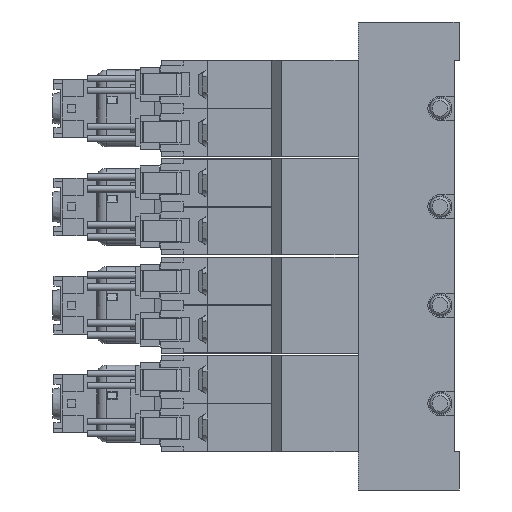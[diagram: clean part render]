
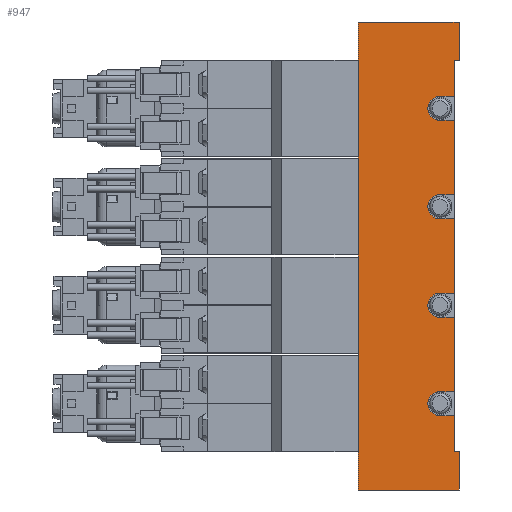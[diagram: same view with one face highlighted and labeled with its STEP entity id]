
A CAD part, left-side view. The second image highlights one B-rep face of the part: STEP entity #947.
In plain terms, the highlighted planar face has unit normal (-1, 0, 0) as drawn and (1, 0, 0) by its records, which use the part's own axes.
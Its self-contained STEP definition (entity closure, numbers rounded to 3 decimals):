
#947=ADVANCED_FACE('',(#3427),#3428,.F.);
#3427=FACE_OUTER_BOUND('',#8135,.T.);
#3428=PLANE('',#8136);
#8135=EDGE_LOOP('',(#15083,#15084,#15085,#15086,#15087,#15088,#15089,#15090,#15091,#15092,#15093,#15094,#15095,#15096,#15097,#15098,#15099,#15100,#15101,#15102,#15103,#15104,#15105,#15106));
#8136=AXIS2_PLACEMENT_3D('',#15107,#15108,#15109);
#15083=ORIENTED_EDGE('',*,*,#29310,.T.);
#15084=ORIENTED_EDGE('',*,*,#29311,.T.);
#15085=ORIENTED_EDGE('',*,*,#29280,.F.);
#15086=ORIENTED_EDGE('',*,*,#29309,.F.);
#15087=ORIENTED_EDGE('',*,*,#29312,.T.);
#15088=ORIENTED_EDGE('',*,*,#29249,.T.);
#15089=ORIENTED_EDGE('',*,*,#29313,.T.);
#15090=ORIENTED_EDGE('',*,*,#29285,.F.);
#15091=ORIENTED_EDGE('',*,*,#29314,.F.);
#15092=ORIENTED_EDGE('',*,*,#29315,.F.);
#15093=ORIENTED_EDGE('',*,*,#29316,.T.);
#15094=ORIENTED_EDGE('',*,*,#29317,.F.);
#15095=ORIENTED_EDGE('',*,*,#29318,.F.);
#15096=ORIENTED_EDGE('',*,*,#29319,.F.);
#15097=ORIENTED_EDGE('',*,*,#29320,.T.);
#15098=ORIENTED_EDGE('',*,*,#29290,.F.);
#15099=ORIENTED_EDGE('',*,*,#29304,.F.);
#15100=ORIENTED_EDGE('',*,*,#29321,.F.);
#15101=ORIENTED_EDGE('',*,*,#29322,.T.);
#15102=ORIENTED_EDGE('',*,*,#29323,.F.);
#15103=ORIENTED_EDGE('',*,*,#29324,.F.);
#15104=ORIENTED_EDGE('',*,*,#29325,.F.);
#15105=ORIENTED_EDGE('',*,*,#29326,.T.);
#15106=ORIENTED_EDGE('',*,*,#29327,.T.);
#15107=CARTESIAN_POINT('',(17.5,1.0,48.75));
#15108=DIRECTION('',(-1.0,0.0,0.0));
#15109=DIRECTION('',(0.0,0.0,1.0));
#29249=EDGE_CURVE('',#35507,#35504,#35508,.T.);
#29280=EDGE_CURVE('',#35567,#35562,#35569,.T.);
#29285=EDGE_CURVE('',#35578,#35579,#35580,.T.);
#29290=EDGE_CURVE('',#35588,#35589,#35590,.T.);
#29304=EDGE_CURVE('',#35613,#35588,#35615,.T.);
#29309=EDGE_CURVE('',#35622,#35567,#35624,.T.);
#29310=EDGE_CURVE('',#35625,#35626,#35627,.T.);
#29311=EDGE_CURVE('',#35626,#35562,#35628,.T.);
#29312=EDGE_CURVE('',#35622,#35507,#35629,.T.);
#29313=EDGE_CURVE('',#35504,#35579,#35630,.T.);
#29314=EDGE_CURVE('',#35631,#35578,#35632,.T.);
#29315=EDGE_CURVE('',#35633,#35631,#35634,.T.);
#29316=EDGE_CURVE('',#35633,#35635,#35636,.T.);
#29317=EDGE_CURVE('',#35637,#35635,#35638,.T.);
#29318=EDGE_CURVE('',#35639,#35637,#35640,.T.);
#29319=EDGE_CURVE('',#35641,#35639,#35642,.T.);
#29320=EDGE_CURVE('',#35641,#35589,#35643,.T.);
#29321=EDGE_CURVE('',#35644,#35613,#35645,.T.);
#29322=EDGE_CURVE('',#35644,#35646,#35647,.T.);
#29323=EDGE_CURVE('',#35648,#35646,#35649,.T.);
#29324=EDGE_CURVE('',#35650,#35648,#35651,.T.);
#29325=EDGE_CURVE('',#35652,#35650,#35653,.T.);
#29326=EDGE_CURVE('',#35652,#35654,#35655,.T.);
#29327=EDGE_CURVE('',#35654,#35625,#35656,.T.);
#35504=VERTEX_POINT('',#44966);
#35507=VERTEX_POINT('',#44970);
#35508=LINE('',#44971,#44972);
#35562=VERTEX_POINT('',#45169);
#35567=VERTEX_POINT('',#45176);
#35569=LINE('',#45179,#45180);
#35578=VERTEX_POINT('',#45189);
#35579=VERTEX_POINT('',#45190);
#35580=LINE('',#45191,#45192);
#35588=VERTEX_POINT('',#45204);
#35589=VERTEX_POINT('',#45205);
#35590=LINE('',#45206,#45207);
#35613=VERTEX_POINT('',#45235);
#35615=CIRCLE('',#45238,2.5);
#35622=VERTEX_POINT('',#45248);
#35624=LINE('',#45251,#45252);
#35625=VERTEX_POINT('',#45253);
#35626=VERTEX_POINT('',#45254);
#35627=LINE('',#45255,#45256);
#35628=LINE('',#45257,#45258);
#35629=LINE('',#45259,#45260);
#35630=LINE('',#45261,#45262);
#35631=VERTEX_POINT('',#45263);
#35632=CIRCLE('',#45264,2.5);
#35633=VERTEX_POINT('',#45265);
#35634=LINE('',#45266,#45267);
#35635=VERTEX_POINT('',#45268);
#35636=LINE('',#45269,#45270);
#35637=VERTEX_POINT('',#45271);
#35638=LINE('',#45272,#45273);
#35639=VERTEX_POINT('',#45274);
#35640=CIRCLE('',#45275,2.5);
#35641=VERTEX_POINT('',#45276);
#35642=LINE('',#45277,#45278);
#35643=LINE('',#45279,#45280);
#35644=VERTEX_POINT('',#45281);
#35645=LINE('',#45282,#45283);
#35646=VERTEX_POINT('',#45284);
#35647=LINE('',#45285,#45286);
#35648=VERTEX_POINT('',#45287);
#35649=LINE('',#45288,#45289);
#35650=VERTEX_POINT('',#45290);
#35651=CIRCLE('',#45291,2.5);
#35652=VERTEX_POINT('',#45292);
#35653=LINE('',#45293,#45294);
#35654=VERTEX_POINT('',#45295);
#35655=LINE('',#45296,#45297);
#35656=LINE('',#45298,#45299);
#44966=CARTESIAN_POINT('',(17.5,1.0,40.75));
#44970=CARTESIAN_POINT('',(17.5,0.0,40.75));
#44971=CARTESIAN_POINT('',(17.5,0.0,40.75));
#44972=VECTOR('',#56934,1.0);
#45169=CARTESIAN_POINT('',(17.5,21.0,-48.75));
#45176=CARTESIAN_POINT('',(17.5,21.0,48.75));
#45179=CARTESIAN_POINT('',(17.5,21.0,48.75));
#45180=VECTOR('',#56988,1.0);
#45189=CARTESIAN_POINT('',(17.5,4.0,33.25));
#45190=CARTESIAN_POINT('',(17.5,1.0,33.25));
#45191=CARTESIAN_POINT('',(17.5,1.0,33.25));
#45192=VECTOR('',#57001,1.0);
#45204=CARTESIAN_POINT('',(17.5,4.0,-7.75));
#45205=CARTESIAN_POINT('',(17.5,1.0,-7.75));
#45206=CARTESIAN_POINT('',(17.5,1.0,-7.75));
#45207=VECTOR('',#57006,1.0);
#45235=CARTESIAN_POINT('',(17.5,4.0,-12.75));
#45238=AXIS2_PLACEMENT_3D('',#57034,#57035,#57036);
#45248=CARTESIAN_POINT('',(17.5,0.0,48.75));
#45251=CARTESIAN_POINT('',(17.5,1.0,48.75));
#45252=VECTOR('',#57041,1.0);
#45253=CARTESIAN_POINT('',(17.5,0.0,-40.75));
#45254=CARTESIAN_POINT('',(17.5,0.0,-48.75));
#45255=CARTESIAN_POINT('',(17.5,0.0,-40.75));
#45256=VECTOR('',#57042,1.0);
#45257=CARTESIAN_POINT('',(17.5,1.0,-48.75));
#45258=VECTOR('',#57043,1.0);
#45259=CARTESIAN_POINT('',(17.5,0.0,48.75));
#45260=VECTOR('',#57044,1.0);
#45261=CARTESIAN_POINT('',(17.5,1.0,48.75));
#45262=VECTOR('',#57045,1.0);
#45263=CARTESIAN_POINT('',(17.5,4.0,28.25));
#45264=AXIS2_PLACEMENT_3D('',#57046,#57047,#57048);
#45265=CARTESIAN_POINT('',(17.5,1.0,28.25));
#45266=CARTESIAN_POINT('',(17.5,1.0,28.25));
#45267=VECTOR('',#57049,1.0);
#45268=CARTESIAN_POINT('',(17.5,1.0,12.75));
#45269=CARTESIAN_POINT('',(17.5,1.0,48.75));
#45270=VECTOR('',#57050,1.0);
#45271=CARTESIAN_POINT('',(17.5,4.0,12.75));
#45272=CARTESIAN_POINT('',(17.5,1.0,12.75));
#45273=VECTOR('',#57051,1.0);
#45274=CARTESIAN_POINT('',(17.5,4.0,7.75));
#45275=AXIS2_PLACEMENT_3D('',#57052,#57053,#57054);
#45276=CARTESIAN_POINT('',(17.5,1.0,7.75));
#45277=CARTESIAN_POINT('',(17.5,1.0,7.75));
#45278=VECTOR('',#57055,1.0);
#45279=CARTESIAN_POINT('',(17.5,1.0,48.75));
#45280=VECTOR('',#57056,1.0);
#45281=CARTESIAN_POINT('',(17.5,1.0,-12.75));
#45282=CARTESIAN_POINT('',(17.5,1.0,-12.75));
#45283=VECTOR('',#57057,1.0);
#45284=CARTESIAN_POINT('',(17.5,1.0,-28.25));
#45285=CARTESIAN_POINT('',(17.5,1.0,48.75));
#45286=VECTOR('',#57058,1.0);
#45287=CARTESIAN_POINT('',(17.5,4.0,-28.25));
#45288=CARTESIAN_POINT('',(17.5,1.0,-28.25));
#45289=VECTOR('',#57059,1.0);
#45290=CARTESIAN_POINT('',(17.5,4.0,-33.25));
#45291=AXIS2_PLACEMENT_3D('',#57060,#57061,#57062);
#45292=CARTESIAN_POINT('',(17.5,1.0,-33.25));
#45293=CARTESIAN_POINT('',(17.5,1.0,-33.25));
#45294=VECTOR('',#57063,1.0);
#45295=CARTESIAN_POINT('',(17.5,1.0,-40.75));
#45296=CARTESIAN_POINT('',(17.5,1.0,48.75));
#45297=VECTOR('',#57064,1.0);
#45298=CARTESIAN_POINT('',(17.5,4.0,-40.75));
#45299=VECTOR('',#57065,1.0);
#56934=DIRECTION('',(0.0,1.0,0.0));
#56988=DIRECTION('',(0.0,0.0,-1.0));
#57001=DIRECTION('',(0.0,-1.0,0.0));
#57006=DIRECTION('',(0.0,-1.0,0.0));
#57034=CARTESIAN_POINT('',(17.5,4.0,-10.25));
#57035=DIRECTION('',(1.0,0.0,-0.0));
#57036=DIRECTION('',(0.0,0.0,1.0));
#57041=DIRECTION('',(0.0,1.0,0.0));
#57042=DIRECTION('',(0.0,0.0,-1.0));
#57043=DIRECTION('',(0.0,1.0,0.0));
#57044=DIRECTION('',(0.0,0.0,-1.0));
#57045=DIRECTION('',(0.0,0.0,-1.0));
#57046=CARTESIAN_POINT('',(17.5,4.0,30.75));
#57047=DIRECTION('',(1.0,0.0,-0.0));
#57048=DIRECTION('',(0.0,0.0,1.0));
#57049=DIRECTION('',(0.0,1.0,0.0));
#57050=DIRECTION('',(0.0,0.0,-1.0));
#57051=DIRECTION('',(0.0,-1.0,0.0));
#57052=CARTESIAN_POINT('',(17.5,4.0,10.25));
#57053=DIRECTION('',(1.0,0.0,-0.0));
#57054=DIRECTION('',(0.0,0.0,1.0));
#57055=DIRECTION('',(0.0,1.0,0.0));
#57056=DIRECTION('',(0.0,0.0,-1.0));
#57057=DIRECTION('',(0.0,1.0,0.0));
#57058=DIRECTION('',(0.0,0.0,-1.0));
#57059=DIRECTION('',(0.0,-1.0,0.0));
#57060=CARTESIAN_POINT('',(17.5,4.0,-30.75));
#57061=DIRECTION('',(1.0,0.0,-0.0));
#57062=DIRECTION('',(0.0,0.0,1.0));
#57063=DIRECTION('',(0.0,1.0,0.0));
#57064=DIRECTION('',(0.0,0.0,-1.0));
#57065=DIRECTION('',(0.0,-1.0,0.0));
